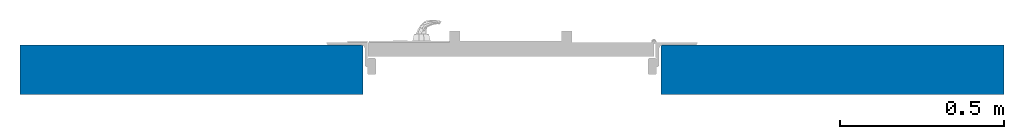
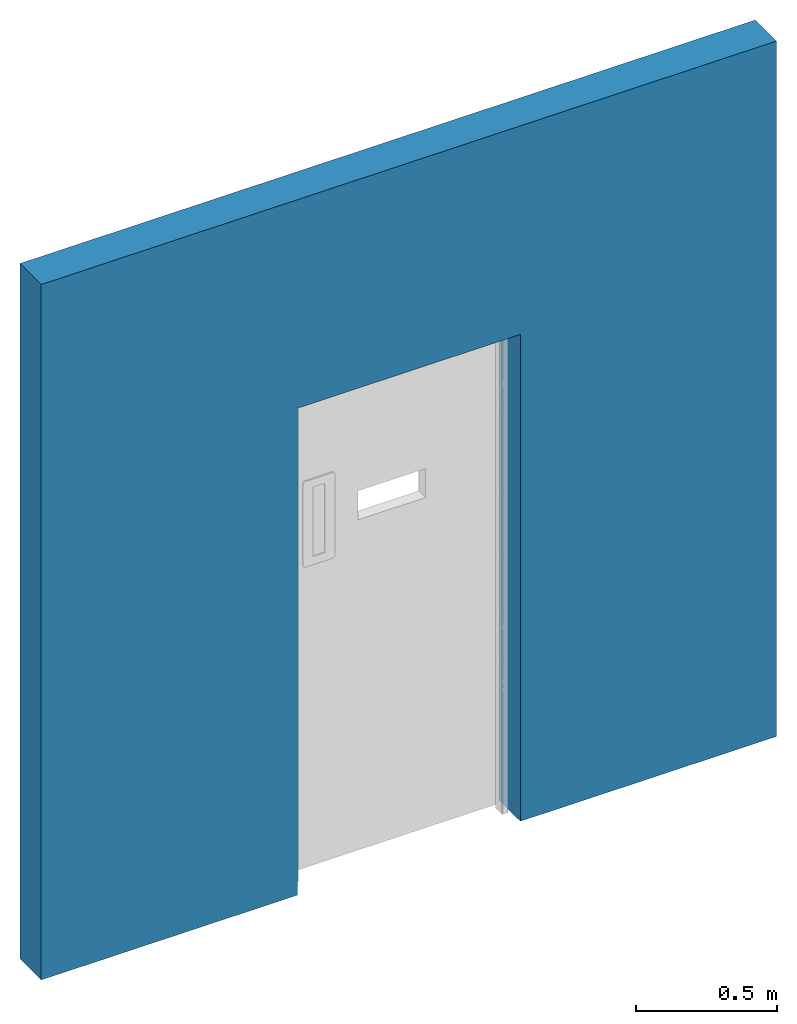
# One storey, incomplete: 1 wall, 1 opening.
"""IFC2X3 building model written with IfcOpenShell, lengths in millimetres."""

from ifc_helpers import new_model, entity, si_unit, converted_unit, derived_unit, direction, frame, frame_2d, origin, place, context, subcontext, project, spatial, rectangle, extrude, material, layer, layer_set, layer_usage, type_object, element, save


model = new_model("IFC2X3")

# Units and contexts
model_context = context("Model", 3, precision=0.01, world=origin(), true_north=direction((6.12303176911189e-17, 1.0)))
body_context = subcontext(model_context, "Body", "Model", "MODEL_VIEW")
ifc_project = project(units=[si_unit("LENGTHUNIT", "METRE", prefix="MILLI"), si_unit("AREAUNIT", "SQUARE_METRE"), si_unit("VOLUMEUNIT", "CUBIC_METRE"), converted_unit("PLANEANGLEUNIT", "DEGREE", entity("IfcRatioMeasure", 0.0174532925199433), si_unit("PLANEANGLEUNIT", "RADIAN"), dimensions=[0, 0, 0, 0, 0, 0, 0]), si_unit("MASSUNIT", "GRAM", prefix="KILO"), si_unit("TIMEUNIT", "SECOND"), si_unit("FREQUENCYUNIT", "HERTZ"), si_unit("THERMODYNAMICTEMPERATUREUNIT", "DEGREE_CELSIUS"), derived_unit("THERMALTRANSMITTANCEUNIT", [(si_unit("MASSUNIT", "GRAM", prefix="KILO"), 1), (si_unit("THERMODYNAMICTEMPERATUREUNIT", "KELVIN"), -1), (si_unit("TIMEUNIT", "SECOND"), -3)]), derived_unit("VOLUMETRICFLOWRATEUNIT", [(si_unit("LENGTHUNIT", "METRE"), 3), (si_unit("TIMEUNIT", "SECOND"), -1)]), si_unit("ELECTRICCURRENTUNIT", "AMPERE"), si_unit("ELECTRICVOLTAGEUNIT", "VOLT"), si_unit("POWERUNIT", "WATT"), si_unit("FORCEUNIT", "NEWTON", prefix="KILO"), si_unit("ILLUMINANCEUNIT", "LUX"), si_unit("LUMINOUSFLUXUNIT", "LUMEN"), si_unit("LUMINOUSINTENSITYUNIT", "CANDELA"), si_unit("PRESSUREUNIT", "PASCAL")], contexts=[model_context])

# Site, building, storey
site_placement = place(None, origin())
site = spatial("IfcSite", under=ifc_project, at=site_placement, Name="Default", CompositionType="ELEMENT")
building_placement = place(site_placement, origin())
building = spatial("IfcBuilding", under=site, at=building_placement, CompositionType="ELEMENT")
storey_placement = place(building_placement, origin())
storey = spatial("IfcBuildingStorey", under=building, at=storey_placement, Name="Level 1", CompositionType="ELEMENT", Elevation=0.0)

# Wall, opening
ifc_material = material(Name="nbl_Concept")
ifc_layer = layer(ifc_material, 150.0)
ifc_layer_set = layer_set([ifc_layer], Name="Basic Wall:NBS_Int_Concept")
ifc_layer_usage = layer_usage(ifc_layer_set, "AXIS2", "POSITIVE", -75.0)
wall_type = type_object("IfcWallType", Name="Basic Wall:NBS_Int_Concept", PredefinedType="STANDARD", material=ifc_layer_set)
wall_placement = place(storey_placement, frame((-1500.0, 0.0, 0.0)))
wall = element("IfcWallStandardCase", 1, at=wall_placement, inside=storey, type_object=wall_type, material=ifc_layer_usage, Name="Basic Wall:NBS_Int_Concept:2301", ObjectType="Basic Wall:NBS_Int_Concept:2340", context=body_context, shape_type="SweptSolid", body=[
    extrude(rectangle(XDim=3000.0, YDim=150.0, at=frame_2d((1500.0, 0.0), x_axis=(-1.0, 0.0))), origin(), (0.0, 0.0, 1.0), 3000.0),
])
opening_placement = place(wall_placement, frame((1045.0, -75.0, 0.0)))
element("IfcOpeningElement", 2, at=opening_placement, cuts=wall, Name="NBS_AssaAbloyLtd_DrsetSym_LambethPoliceCellDoor_Single:910x2100mm:1", ObjectType="Opening", context=body_context, shape_type="SweptSolid", body=[
    extrude(rectangle(XDim=2100.0, YDim=909.999999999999, at=frame_2d((1050.0, 455.0), x_axis=(1.0, 0.0))), frame((0.0, 0.0, 0.0), z_axis=(0.0, 1.0, 0.0), x_axis=(0.0, 0.0, 1.0)), (0.0, 0.0, 1.0), 150.0),
])

save(model, "model.ifc")
